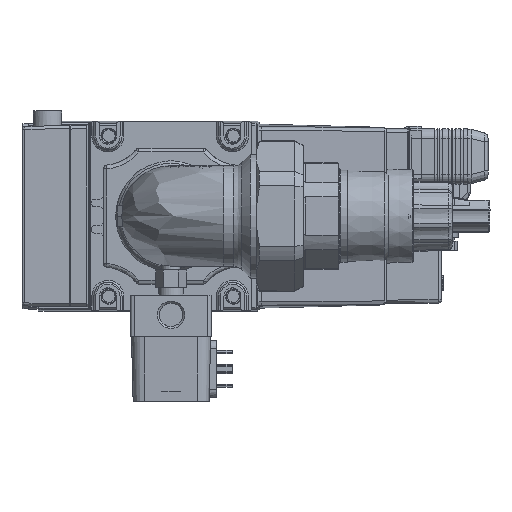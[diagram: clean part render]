
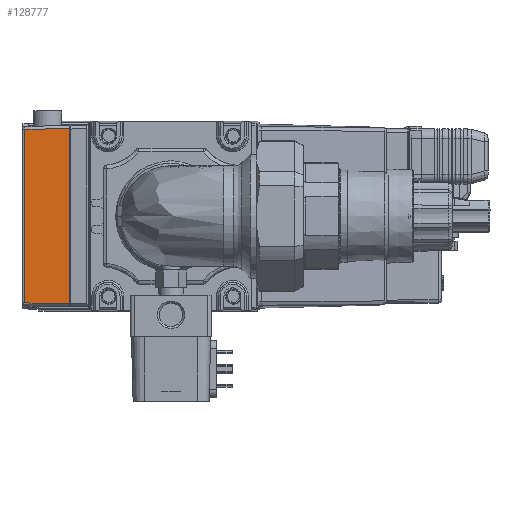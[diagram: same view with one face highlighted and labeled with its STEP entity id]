
A CAD part, left-side view. The second image highlights one B-rep face of the part: STEP entity #128777.
In plain terms, the highlighted planar face has unit normal (-1, 0.018, 0) as drawn and (1, 0, -0.017) by its records, which use the part's own axes.
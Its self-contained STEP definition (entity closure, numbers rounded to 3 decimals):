
#7145 = CARTESIAN_POINT ( 'NONE',  ( 58.5, -46.4, -11. ) ) ;
#15444 = LINE ( 'NONE', #64243, #94016 ) ;
#23757 = PLANE ( 'NONE',  #117704 ) ;
#25814 = CARTESIAN_POINT ( 'NONE',  ( 58.091, -45.991, -34.428 ) ) ;
#28106 = VERTEX_POINT ( 'NONE', #43592 ) ;
#28486 = DIRECTION ( 'NONE',  ( 0., -1., 0. ) ) ;
#30339 = DIRECTION ( 'NONE',  ( -0.017, 0.017, -1. ) ) ;
#33389 = ORIENTED_EDGE ( 'NONE', *, *, #72976, .F. ) ;
#38265 = CARTESIAN_POINT ( 'NONE',  ( 58.091, 45.991, -34.428 ) ) ;
#43592 = CARTESIAN_POINT ( 'NONE',  ( 58.5, 46.4, -11. ) ) ;
#44317 = VERTEX_POINT ( 'NONE', #25814 ) ;
#44757 = CARTESIAN_POINT ( 'NONE',  ( 58.5, -48., -11. ) ) ;
#45595 = VECTOR ( 'NONE', #28486, 1000. ) ;
#49281 = ORIENTED_EDGE ( 'NONE', *, *, #92344, .T. ) ;
#52812 = ORIENTED_EDGE ( 'NONE', *, *, #122506, .T. ) ;
#59261 = DIRECTION ( 'NONE',  ( 0.017, 0.017, 1. ) ) ;
#64243 = CARTESIAN_POINT ( 'NONE',  ( 58.091, -24., -34.428 ) ) ;
#65769 = EDGE_CURVE ( 'NONE', #86905, #44317, #102119, .T. ) ;
#72914 = ORIENTED_EDGE ( 'NONE', *, *, #65769, .T. ) ;
#72976 = EDGE_CURVE ( 'NONE', #99982, #44317, #15444, .T. ) ;
#72998 = VECTOR ( 'NONE', #59261, 1000. ) ;
#81553 = LINE ( 'NONE', #38265, #72998 ) ;
#86905 = VERTEX_POINT ( 'NONE', #7145 ) ;
#90098 = LINE ( 'NONE', #121239, #45595 ) ;
#90537 = CARTESIAN_POINT ( 'NONE',  ( 58.091, 45.991, -34.428 ) ) ;
#92344 = EDGE_CURVE ( 'NONE', #28106, #86905, #90098, .T. ) ;
#94016 = VECTOR ( 'NONE', #118367, 1000. ) ;
#94176 = DIRECTION ( 'NONE',  ( -0.017, 0., -1. ) ) ;
#94858 = VECTOR ( 'NONE', #30339, 1000. ) ;
#94861 = EDGE_LOOP ( 'NONE', ( #49281, #72914, #33389, #52812 ) ) ;
#96882 = FACE_OUTER_BOUND ( 'NONE', #94861, .T. ) ;
#99982 = VERTEX_POINT ( 'NONE', #90537 ) ;
#102119 = LINE ( 'NONE', #123108, #94858 ) ;
#107027 = DIRECTION ( 'NONE',  ( 1., 0., -0.017 ) ) ;
#117704 = AXIS2_PLACEMENT_3D ( 'NONE', #44757, #107027, #94176 ) ;
#118367 = DIRECTION ( 'NONE',  ( 0., -1., 0. ) ) ;
#121239 = CARTESIAN_POINT ( 'NONE',  ( 58.5, -48., -11. ) ) ;
#122506 = EDGE_CURVE ( 'NONE', #99982, #28106, #81553, .T. ) ;
#123108 = CARTESIAN_POINT ( 'NONE',  ( 58.5, -46.4, -11. ) ) ;
#128777 = ADVANCED_FACE ( 'NONE', ( #96882 ), #23757, .T. ) ;
